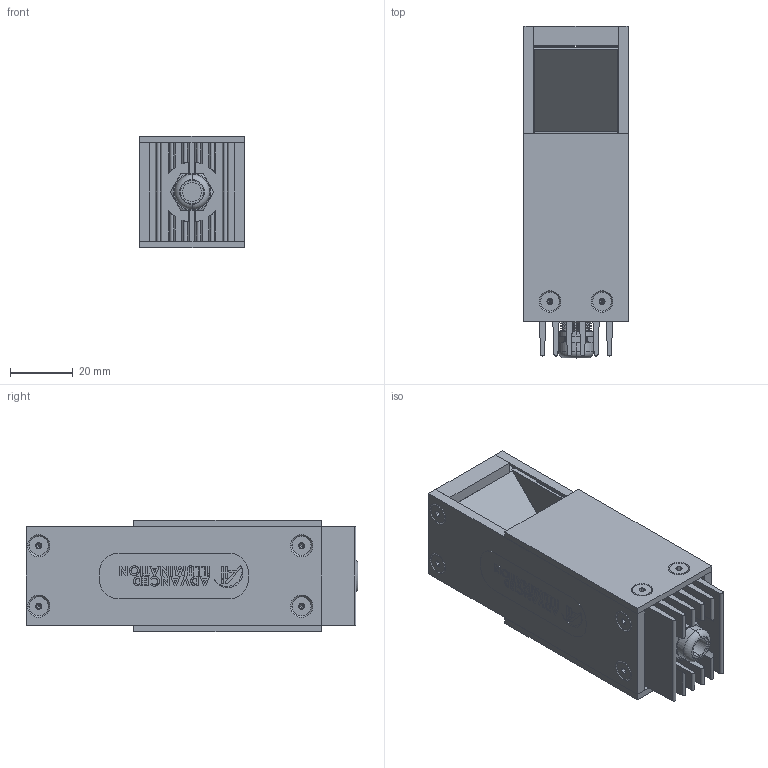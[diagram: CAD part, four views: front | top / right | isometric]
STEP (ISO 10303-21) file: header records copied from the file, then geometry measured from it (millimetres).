
FILE_DESCRIPTION (( 'STEP AP214' ), '1' );
FILE_NAME ('DL225-025_Default.stp', '2021-05-03T19:20:30', ( '' ), ( '' ), 'SwSTEP 2.0', 'SolidWorks 2018', '' );
FILE_SCHEMA (( 'AUTOMOTIVE_DESIGN' ));
Length unit declared in the file: inch
Products named in the file (19): 096436; 091053; 090154-01; 094-03-006; 096434_Default<As Machined>; 5413-54; 096437; FH-440X.25; CD10MW-BR_Model_Dome Fittings_Thread Type and Size(Dome)_M10 x 1.5_Hazardous Location-Explosive Proof(ATEX and EExe Versions)_No_; 094-01-004; 096435; 094-03-005_Default<As Machined>; 094-03-009; 094-01-001; DL225-025_Default; 096433_Default<As Machined>; PHTHF-256x.1875; 090022
Assembly tree (42 placements, depth 3):
  DL225-025_Default
    096433_Default<As Machined>
    096434_Default<As Machined>
    096435  x2
    094-01-001  x2
    090154-01  x6
    094-03-009  x4
    096436  x2
    FH-440X.25  x12
    090022
    094-03-006
    094-03-005_Default<As Machined>
    094-01-004
    091053  x2
      091053
    CD10MW-BR_Model_Dome Fittings_Thread Type and Size(Dome)_M10 x 1.5_Hazardous Location-Explosive Proof(ATEX and EExe Versions)_No_
    096437  x2
    5413-54
    PHTHF-256x.1875
Bounding box: 33.38 x 105.84 x 35.71 mm (x, y, z)
Volume: 53605.6 mm3; surface area: 62275.8 mm2
Topology: 42 solids, 42 shells, 1810 faces, 4368 edges, 2726 vertices
Faces by surface type: plane 920, cylinder 407, cone 335, bspline 124, torus 24
Entity records: 38413 total; most frequent: CARTESIAN_POINT 14134, ORIENTED_EDGE 4324, DIRECTION 3964, EDGE_CURVE 2162, VERTEX_POINT 1376, AXIS2_PLACEMENT_3D 1333, LINE 1298, VECTOR 1298
